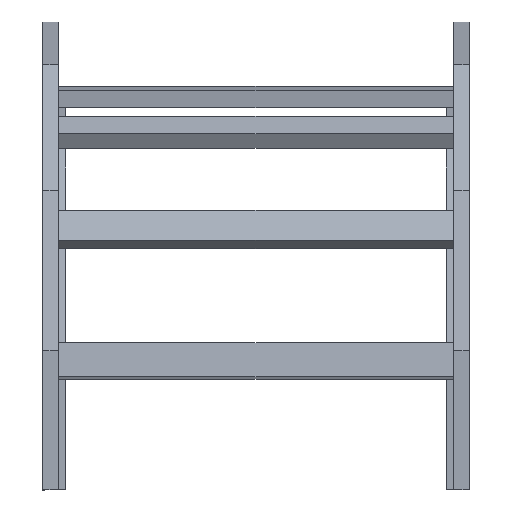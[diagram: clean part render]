
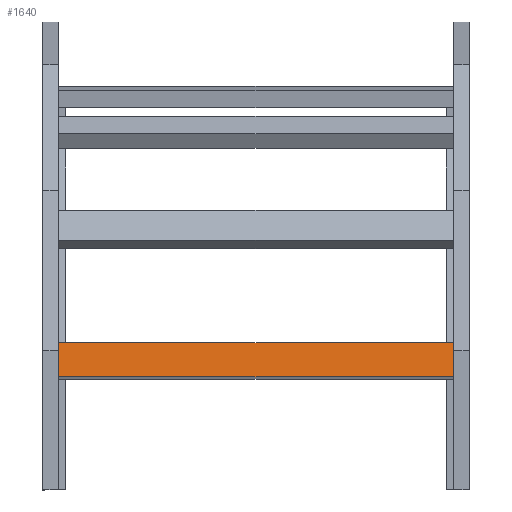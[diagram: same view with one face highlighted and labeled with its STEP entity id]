
A CAD part, top view. The second image highlights one B-rep face of the part: STEP entity #1640.
In plain terms, the highlighted planar face has unit normal (0, 0.131, 0.991) as drawn and (0, 1, 0) by its records, which use the part's own axes.
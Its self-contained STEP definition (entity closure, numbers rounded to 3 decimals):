
#134 = VECTOR ( 'NONE', #938, 1000. ) ;
#144 = ORIENTED_EDGE ( 'NONE', *, *, #450, .T. ) ;
#175 = CARTESIAN_POINT ( 'NONE',  ( 248., 20., 20.25 ) ) ;
#216 = LINE ( 'NONE', #803, #134 ) ;
#439 = VECTOR ( 'NONE', #749, 1000. ) ;
#445 = VERTEX_POINT ( 'NONE', #544 ) ;
#450 = EDGE_CURVE ( 'NONE', #661, #445, #536, .T. ) ;
#513 = CARTESIAN_POINT ( 'NONE',  ( -248., 20., -20.25 ) ) ;
#536 = LINE ( 'NONE', #1151, #1379 ) ;
#539 = EDGE_LOOP ( 'NONE', ( #144, #1721, #796, #1825 ) ) ;
#544 = CARTESIAN_POINT ( 'NONE',  ( -248., 20., 20.25 ) ) ;
#575 = CARTESIAN_POINT ( 'NONE',  ( 248., 20., 20.25 ) ) ;
#627 = FACE_OUTER_BOUND ( 'NONE', #539, .T. ) ;
#645 = EDGE_CURVE ( 'NONE', #1266, #445, #216, .T. ) ;
#661 = VERTEX_POINT ( 'NONE', #513 ) ;
#685 = CARTESIAN_POINT ( 'NONE',  ( 248., 20., -20.25 ) ) ;
#749 = DIRECTION ( 'NONE',  ( -1., 0., 0. ) ) ;
#796 = ORIENTED_EDGE ( 'NONE', *, *, #1863, .F. ) ;
#803 = CARTESIAN_POINT ( 'NONE',  ( 248., 20., 20.25 ) ) ;
#860 = VECTOR ( 'NONE', #864, 1000. ) ;
#864 = DIRECTION ( 'NONE',  ( 0., 0., 1. ) ) ;
#880 = PLANE ( 'NONE',  #1629 ) ;
#938 = DIRECTION ( 'NONE',  ( -1., 0., 0. ) ) ;
#1055 = LINE ( 'NONE', #1478, #439 ) ;
#1151 = CARTESIAN_POINT ( 'NONE',  ( -248., 20., 20.25 ) ) ;
#1266 = VERTEX_POINT ( 'NONE', #575 ) ;
#1327 = DIRECTION ( 'NONE',  ( 0., -1., 0. ) ) ;
#1379 = VECTOR ( 'NONE', #1740, 1000. ) ;
#1478 = CARTESIAN_POINT ( 'NONE',  ( 248., 20., -20.25 ) ) ;
#1559 = VERTEX_POINT ( 'NONE', #685 ) ;
#1629 = AXIS2_PLACEMENT_3D ( 'NONE', #175, #1327, #1796 ) ;
#1640 = ADVANCED_FACE ( 'NONE', ( #627 ), #880, .F. ) ;
#1718 = EDGE_CURVE ( 'NONE', #1559, #661, #1055, .T. ) ;
#1721 = ORIENTED_EDGE ( 'NONE', *, *, #645, .F. ) ;
#1740 = DIRECTION ( 'NONE',  ( 0., 0., 1. ) ) ;
#1796 = DIRECTION ( 'NONE',  ( 0., 0., -1. ) ) ;
#1825 = ORIENTED_EDGE ( 'NONE', *, *, #1718, .T. ) ;
#1863 = EDGE_CURVE ( 'NONE', #1559, #1266, #1885, .T. ) ;
#1885 = LINE ( 'NONE', #1891, #860 ) ;
#1891 = CARTESIAN_POINT ( 'NONE',  ( 248., 20., 20.25 ) ) ;
